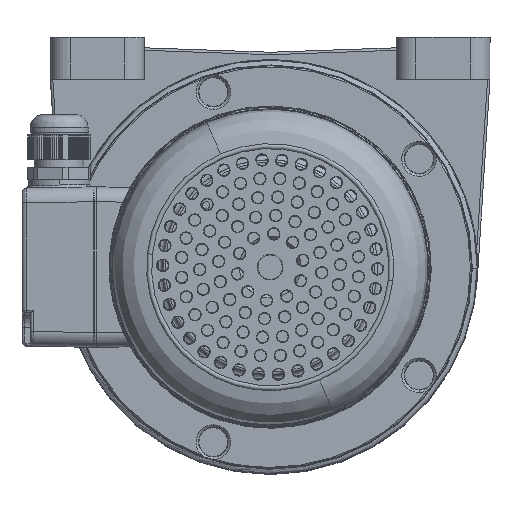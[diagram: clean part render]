
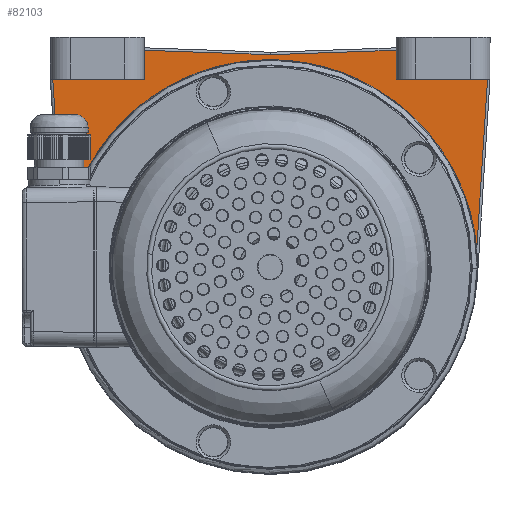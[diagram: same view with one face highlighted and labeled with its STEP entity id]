
A CAD part, front view. The second image highlights one B-rep face of the part: STEP entity #82103.
In plain terms, the highlighted planar face has unit normal (0, -1, 0) as drawn and (0, 0, -1) by its records, which use the part's own axes.
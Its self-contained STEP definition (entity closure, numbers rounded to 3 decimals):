
#14813 = CIRCLE ( 'NONE', #110067, 84. ) ;
#22700 = CARTESIAN_POINT ( 'NONE',  ( 0., 0., 4. ) ) ;
#22701 = DIRECTION ( 'NONE',  ( 0., 0., -1. ) ) ;
#22702 = DIRECTION ( 'NONE',  ( -1., 0., 0. ) ) ;
#22912 = LINE ( 'NONE', #22913, #110104 ) ;
#22913 = CARTESIAN_POINT ( 'NONE',  ( 0.035, -86.001, 4. ) ) ;
#22914 = DIRECTION ( 'NONE',  ( -0.999, 0.035, 0. ) ) ;
#22924 = LINE ( 'NONE', #22925, #110106 ) ;
#22925 = CARTESIAN_POINT ( 'NONE',  ( -51.035, -87.782, 4. ) ) ;
#22926 = DIRECTION ( 'NONE',  ( -0.999, -0.035, 0. ) ) ;
#22963 = LINE ( 'NONE', #22964, #110115 ) ;
#22964 = CARTESIAN_POINT ( 'NONE',  ( 88.002, -76.063, 4. ) ) ;
#22965 = DIRECTION ( 'NONE',  ( 0.063, -0.998, 0. ) ) ;
#22981 = LINE ( 'NONE', #22982, #110121 ) ;
#22982 = CARTESIAN_POINT ( 'NONE',  ( -82.833, 5.265, 4. ) ) ;
#22983 = DIRECTION ( 'NONE',  ( 0.063, 0.998, 0. ) ) ;
#23141 = LINE ( 'NONE', #23142, #24725 ) ;
#23142 = CARTESIAN_POINT ( 'NONE',  ( 0., -76., 4. ) ) ;
#23143 = DIRECTION ( 'NONE',  ( -1., 0., 0. ) ) ;
#23180 = LINE ( 'NONE', #23181, #24738 ) ;
#23181 = CARTESIAN_POINT ( 'NONE',  ( 51., 0., 4. ) ) ;
#23182 = DIRECTION ( 'NONE',  ( 0., -1., 0. ) ) ;
#23228 = LINE ( 'NONE', #23229, #24755 ) ;
#23229 = CARTESIAN_POINT ( 'NONE',  ( 0., -76., 4. ) ) ;
#23230 = DIRECTION ( 'NONE',  ( 1., 0., 0. ) ) ;
#23243 = LINE ( 'NONE', #23244, #24760 ) ;
#23244 = CARTESIAN_POINT ( 'NONE',  ( -51., 0., 4. ) ) ;
#23245 = DIRECTION ( 'NONE',  ( 0., -1., 0. ) ) ;
#24725 = VECTOR ( 'NONE', #23143, 1000. ) ;
#24738 = VECTOR ( 'NONE', #23182, 1000. ) ;
#24755 = VECTOR ( 'NONE', #23230, 1000. ) ;
#24760 = VECTOR ( 'NONE', #23245, 1000. ) ;
#58350 = VERTEX_POINT ( 'NONE', #85944 ) ;
#58409 = VERTEX_POINT ( 'NONE', #85996 ) ;
#58439 = VERTEX_POINT ( 'NONE', #86019 ) ;
#58537 = VERTEX_POINT ( 'NONE', #86745 ) ;
#58546 = VERTEX_POINT ( 'NONE', #86762 ) ;
#58548 = VERTEX_POINT ( 'NONE', #86766 ) ;
#58692 = VERTEX_POINT ( 'NONE', #87018 ) ;
#58853 = VERTEX_POINT ( 'NONE', #87306 ) ;
#59051 = VERTEX_POINT ( 'NONE', #87586 ) ;
#82103 = ADVANCED_FACE ( 'NONE', ( #109351 ), #115635, .T. ) ;
#82732 = EDGE_LOOP ( 'NONE', ( #91669, #91670, #91671, #91668, #91672, #91673, #91674, #91675, #91676 ) ) ;
#85944 = CARTESIAN_POINT ( 'NONE',  ( 0., -85.999, 4. ) ) ;
#85996 = CARTESIAN_POINT ( 'NONE',  ( -51., -87.78, 4. ) ) ;
#86019 = CARTESIAN_POINT ( 'NONE',  ( 51., -76., 4. ) ) ;
#86745 = CARTESIAN_POINT ( 'NONE',  ( -83.653, -7.632, 4. ) ) ;
#86762 = CARTESIAN_POINT ( 'NONE',  ( -51., -76., 4. ) ) ;
#86766 = CARTESIAN_POINT ( 'NONE',  ( -87.998, -76., 4. ) ) ;
#87018 = CARTESIAN_POINT ( 'NONE',  ( 87.998, -76., 4. ) ) ;
#87306 = CARTESIAN_POINT ( 'NONE',  ( 83.653, -7.632, 4. ) ) ;
#87586 = CARTESIAN_POINT ( 'NONE',  ( 51., -87.78, 4. ) ) ;
#88991 = EDGE_CURVE ( 'NONE', #58853, #58537, #14813, .T. ) ;
#89114 = EDGE_CURVE ( 'NONE', #59051, #58350, #22912, .T. ) ;
#89123 = EDGE_CURVE ( 'NONE', #58350, #58409, #22924, .T. ) ;
#89153 = EDGE_CURVE ( 'NONE', #58853, #58692, #22963, .T. ) ;
#89166 = EDGE_CURVE ( 'NONE', #58548, #58537, #22981, .T. ) ;
#89288 = EDGE_CURVE ( 'NONE', #58692, #58439, #23141, .T. ) ;
#89317 = EDGE_CURVE ( 'NONE', #58439, #59051, #23180, .T. ) ;
#89354 = EDGE_CURVE ( 'NONE', #58548, #58546, #23228, .T. ) ;
#89365 = EDGE_CURVE ( 'NONE', #58546, #58409, #23243, .T. ) ;
#91668 = ORIENTED_EDGE ( 'NONE', *, *, #89365, .F. ) ;
#91669 = ORIENTED_EDGE ( 'NONE', *, *, #89317, .T. ) ;
#91670 = ORIENTED_EDGE ( 'NONE', *, *, #89114, .T. ) ;
#91671 = ORIENTED_EDGE ( 'NONE', *, *, #89123, .T. ) ;
#91672 = ORIENTED_EDGE ( 'NONE', *, *, #89354, .F. ) ;
#91673 = ORIENTED_EDGE ( 'NONE', *, *, #89166, .T. ) ;
#91674 = ORIENTED_EDGE ( 'NONE', *, *, #88991, .F. ) ;
#91675 = ORIENTED_EDGE ( 'NONE', *, *, #89153, .T. ) ;
#91676 = ORIENTED_EDGE ( 'NONE', *, *, #89288, .T. ) ;
#109351 = FACE_OUTER_BOUND ( 'NONE', #82732, .T. ) ;
#109354 = AXIS2_PLACEMENT_3D ( 'NONE', #115636, #115637, #115638 ) ;
#110067 = AXIS2_PLACEMENT_3D ( 'NONE', #22700, #22701, #22702 ) ;
#110104 = VECTOR ( 'NONE', #22914, 1000. ) ;
#110106 = VECTOR ( 'NONE', #22926, 1000. ) ;
#110115 = VECTOR ( 'NONE', #22965, 1000. ) ;
#110121 = VECTOR ( 'NONE', #22983, 1000. ) ;
#115635 = PLANE ( 'NONE',  #109354 ) ;
#115636 = CARTESIAN_POINT ( 'NONE',  ( 0., 0., 4. ) ) ;
#115637 = DIRECTION ( 'NONE',  ( 0., 0., -1. ) ) ;
#115638 = DIRECTION ( 'NONE',  ( -1., 0., 0. ) ) ;
